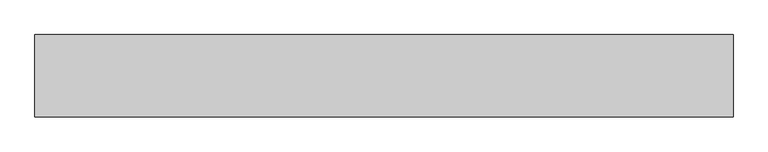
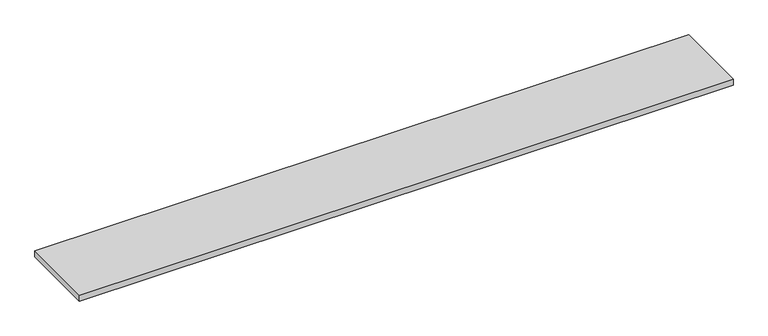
"""IFC4 building model written with IfcOpenShell, lengths in millimetres: proxy geometry, BIMHealth-300mm_deep_shelving-LOD2A-v1 : BIMHealth-300mm_deep_shelving-LOD2A-v1."""

from ifc_helpers import new_model, si_unit, frame, origin, place, context, project, spatial, polyline, outline, extrude, source, transform, mapped, element, save


def generic_models_68ecc83a(model_context):
    return source(origin(), model_context, "Body", "SweptSolid", [
        extrude(outline(polyline([(3100.0, 0.0), (3100.0, -365.1243902), (0.0, -365.1243902), (0.0, 0.0), (3100.0, 0.0)])), frame((0.0, 0.0, 1350.0), z_axis=(0.0, 0.0, 1.0), x_axis=(1.0, 0.0, 0.0)), (0.0, 0.0, 1.0), 30.0),
    ])


if __name__ == "__main__":
    model = new_model("IFC4")
    model_context = context("Model", 3, world=origin())
    ifc_project = project(units=[si_unit("LENGTHUNIT", "METRE", prefix="MILLI")], contexts=[model_context])
    site = spatial("IfcSite", under=ifc_project)
    building = spatial("IfcBuilding", under=site)
    placement = place(None, origin())
    generic_models_shape = generic_models_68ecc83a(model_context)
    element("IfcBuildingElementProxy", 1, Name="BIMHealth-300mm_deep_shelving-LOD2A-v1 : BIMHealth-300mm_deep_shelving-LOD2A-v1", ObjectType="BIMHealth-300mm_deep_shelving-LOD2A-v1 : BIMHealth-300mm_deep_shelving-LOD2A-v1", at=placement, inside=building, context=model_context, shape_type="MappedRepresentation", body=[
        mapped(generic_models_shape, transform((0.0, 0.0, 0.0), x_axis=(1.0, 0.0, 0.0), y_axis=(0.0, 1.0, 0.0), z_axis=(0.0, 0.0, 1.0))),
    ])
    save(model, "model.ifc")
